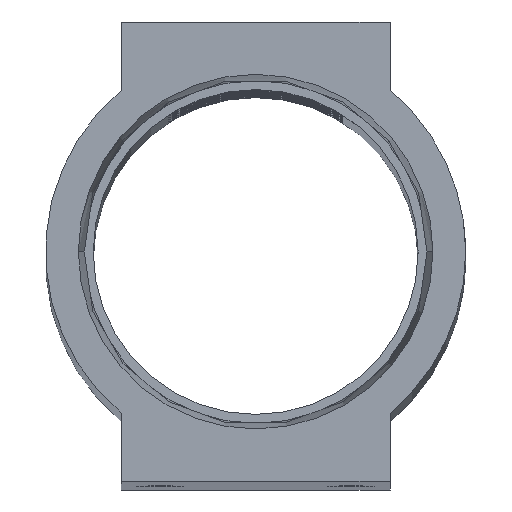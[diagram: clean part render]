
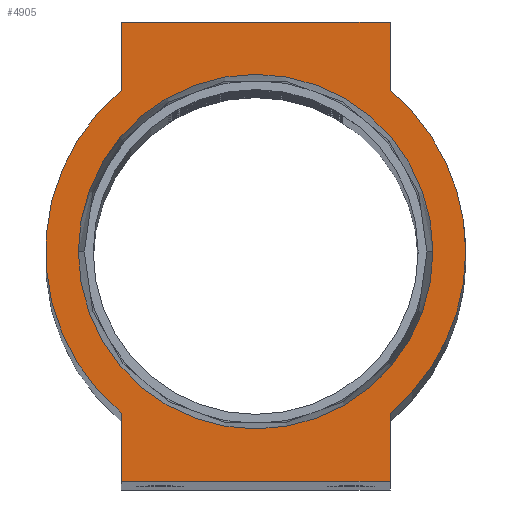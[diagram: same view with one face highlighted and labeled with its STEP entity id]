
A CAD part, top view. The second image highlights one B-rep face of the part: STEP entity #4905.
In plain terms, the highlighted planar face has unit normal (0, 0, 1).
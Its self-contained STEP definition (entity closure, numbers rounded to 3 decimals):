
#226 = LINE ( 'NONE', #8926, #8662 ) ;
#327 = AXIS2_PLACEMENT_3D ( 'NONE', #876, #10544, #8302 ) ;
#403 = ORIENTED_EDGE ( 'NONE', *, *, #968, .T. ) ;
#450 = AXIS2_PLACEMENT_3D ( 'NONE', #3150, #12665, #3010 ) ;
#460 = CIRCLE ( 'NONE', #450, 18.75 ) ;
#513 = DIRECTION ( 'NONE',  ( 0., 1., 0. ) ) ;
#865 = CARTESIAN_POINT ( 'NONE',  ( -12., -20.5, 0. ) ) ;
#876 = CARTESIAN_POINT ( 'NONE',  ( 0., 0., 0. ) ) ;
#880 = VECTOR ( 'NONE', #513, 1000. ) ;
#883 = CARTESIAN_POINT ( 'NONE',  ( 0., 0., 0. ) ) ;
#968 = EDGE_CURVE ( 'NONE', #11360, #12406, #11030, .T. ) ;
#1036 = EDGE_CURVE ( 'NONE', #5599, #1129, #9316, .T. ) ;
#1129 = VERTEX_POINT ( 'NONE', #6098 ) ;
#1180 = CARTESIAN_POINT ( 'NONE',  ( -12., 20.5, 0. ) ) ;
#1319 = LINE ( 'NONE', #9915, #880 ) ;
#1365 = VECTOR ( 'NONE', #3903, 1000. ) ;
#1671 = ORIENTED_EDGE ( 'NONE', *, *, #2642, .T. ) ;
#1813 = VERTEX_POINT ( 'NONE', #7015 ) ;
#1976 = CARTESIAN_POINT ( 'NONE',  ( 0., 0., 0. ) ) ;
#1978 = EDGE_CURVE ( 'NONE', #5286, #10702, #13319, .T. ) ;
#2037 = AXIS2_PLACEMENT_3D ( 'NONE', #1976, #11858, #4179 ) ;
#2125 = ORIENTED_EDGE ( 'NONE', *, *, #7960, .T. ) ;
#2213 = DIRECTION ( 'NONE',  ( 0., -1., 0. ) ) ;
#2632 = CARTESIAN_POINT ( 'NONE',  ( 0., 0., 0. ) ) ;
#2642 = EDGE_CURVE ( 'NONE', #6502, #8103, #11205, .T. ) ;
#2791 = CARTESIAN_POINT ( 'NONE',  ( 12., -14.407, 0. ) ) ;
#2948 = VERTEX_POINT ( 'NONE', #11305 ) ;
#3010 = DIRECTION ( 'NONE',  ( 1., 0., 0. ) ) ;
#3150 = CARTESIAN_POINT ( 'NONE',  ( 0., 0., 0. ) ) ;
#3548 = ORIENTED_EDGE ( 'NONE', *, *, #1036, .F. ) ;
#3571 = CARTESIAN_POINT ( 'NONE',  ( 0., 0., 0. ) ) ;
#3658 = CARTESIAN_POINT ( 'NONE',  ( 12., -20.5, 0. ) ) ;
#3791 = EDGE_CURVE ( 'NONE', #8103, #2948, #1319, .T. ) ;
#3903 = DIRECTION ( 'NONE',  ( 0., -1., 0. ) ) ;
#4087 = VERTEX_POINT ( 'NONE', #10453 ) ;
#4179 = DIRECTION ( 'NONE',  ( 1., 0., 0. ) ) ;
#4759 = EDGE_CURVE ( 'NONE', #4087, #11360, #460, .T. ) ;
#4804 = AXIS2_PLACEMENT_3D ( 'NONE', #3571, #8171, #9154 ) ;
#4905 = ADVANCED_FACE ( 'NONE', ( #12914, #10667 ), #8562, .T. ) ;
#5144 = ORIENTED_EDGE ( 'NONE', *, *, #8654, .F. ) ;
#5187 = DIRECTION ( 'NONE',  ( 0., 0., 1. ) ) ;
#5286 = VERTEX_POINT ( 'NONE', #12990 ) ;
#5599 = VERTEX_POINT ( 'NONE', #6808 ) ;
#5766 = DIRECTION ( 'NONE',  ( 1., 0., 0. ) ) ;
#6098 = CARTESIAN_POINT ( 'NONE',  ( 15.827, 0., 0. ) ) ;
#6502 = VERTEX_POINT ( 'NONE', #11058 ) ;
#6745 = EDGE_LOOP ( 'NONE', ( #5144, #3548 ) ) ;
#6808 = CARTESIAN_POINT ( 'NONE',  ( -15.827, 0., 0. ) ) ;
#6960 = AXIS2_PLACEMENT_3D ( 'NONE', #883, #5187, #7239 ) ;
#7015 = CARTESIAN_POINT ( 'NONE',  ( -12., 20.5, 0. ) ) ;
#7239 = DIRECTION ( 'NONE',  ( 1., 0., 0. ) ) ;
#7374 = DIRECTION ( 'NONE',  ( -1., 0., 0. ) ) ;
#7426 = LINE ( 'NONE', #13762, #1365 ) ;
#7960 = EDGE_CURVE ( 'NONE', #12406, #5286, #226, .T. ) ;
#7976 = DIRECTION ( 'NONE',  ( 0., 1., 0. ) ) ;
#8103 = VERTEX_POINT ( 'NONE', #13874 ) ;
#8171 = DIRECTION ( 'NONE',  ( 0., 0., 1. ) ) ;
#8302 = DIRECTION ( 'NONE',  ( 1., 0., 0. ) ) ;
#8472 = ORIENTED_EDGE ( 'NONE', *, *, #4759, .T. ) ;
#8562 = PLANE ( 'NONE',  #2037 ) ;
#8654 = EDGE_CURVE ( 'NONE', #1129, #5599, #12487, .T. ) ;
#8662 = VECTOR ( 'NONE', #12002, 1000. ) ;
#8682 = VECTOR ( 'NONE', #7374, 1000. ) ;
#8926 = CARTESIAN_POINT ( 'NONE',  ( -12., -20.5, 0. ) ) ;
#9154 = DIRECTION ( 'NONE',  ( 1., 0., 0. ) ) ;
#9316 = CIRCLE ( 'NONE', #10499, 15.827 ) ;
#9326 = EDGE_CURVE ( 'NONE', #10702, #6502, #10899, .T. ) ;
#9809 = CARTESIAN_POINT ( 'NONE',  ( -12., -14.407, 0. ) ) ;
#9915 = CARTESIAN_POINT ( 'NONE',  ( 12., 20.5, 0. ) ) ;
#9968 = EDGE_CURVE ( 'NONE', #2948, #1813, #11967, .T. ) ;
#10189 = VECTOR ( 'NONE', #2213, 1000. ) ;
#10408 = ORIENTED_EDGE ( 'NONE', *, *, #3791, .T. ) ;
#10453 = CARTESIAN_POINT ( 'NONE',  ( -12., 14.407, 0. ) ) ;
#10499 = AXIS2_PLACEMENT_3D ( 'NONE', #2632, #12228, #5766 ) ;
#10544 = DIRECTION ( 'NONE',  ( 0., 0., 1. ) ) ;
#10667 = FACE_OUTER_BOUND ( 'NONE', #11554, .T. ) ;
#10702 = VERTEX_POINT ( 'NONE', #2791 ) ;
#10899 = CIRCLE ( 'NONE', #4804, 18.75 ) ;
#11030 = LINE ( 'NONE', #11801, #10189 ) ;
#11058 = CARTESIAN_POINT ( 'NONE',  ( 18.75, 0., 0. ) ) ;
#11205 = CIRCLE ( 'NONE', #6960, 18.75 ) ;
#11305 = CARTESIAN_POINT ( 'NONE',  ( 12., 20.5, 0. ) ) ;
#11360 = VERTEX_POINT ( 'NONE', #9809 ) ;
#11554 = EDGE_LOOP ( 'NONE', ( #10408, #11748, #12647, #8472, #403, #2125, #13531, #12158, #1671 ) ) ;
#11748 = ORIENTED_EDGE ( 'NONE', *, *, #9968, .T. ) ;
#11801 = CARTESIAN_POINT ( 'NONE',  ( -12., -20.5, 0. ) ) ;
#11858 = DIRECTION ( 'NONE',  ( 0., 0., 1. ) ) ;
#11967 = LINE ( 'NONE', #1180, #8682 ) ;
#12002 = DIRECTION ( 'NONE',  ( 1., 0., 0. ) ) ;
#12158 = ORIENTED_EDGE ( 'NONE', *, *, #9326, .T. ) ;
#12228 = DIRECTION ( 'NONE',  ( 0., 0., 1. ) ) ;
#12406 = VERTEX_POINT ( 'NONE', #865 ) ;
#12450 = EDGE_CURVE ( 'NONE', #1813, #4087, #7426, .T. ) ;
#12487 = CIRCLE ( 'NONE', #327, 15.827 ) ;
#12647 = ORIENTED_EDGE ( 'NONE', *, *, #12450, .T. ) ;
#12665 = DIRECTION ( 'NONE',  ( 0., 0., 1. ) ) ;
#12914 = FACE_BOUND ( 'NONE', #6745, .T. ) ;
#12990 = CARTESIAN_POINT ( 'NONE',  ( 12., -20.5, 0. ) ) ;
#13319 = LINE ( 'NONE', #3658, #13934 ) ;
#13531 = ORIENTED_EDGE ( 'NONE', *, *, #1978, .T. ) ;
#13762 = CARTESIAN_POINT ( 'NONE',  ( -12., 20.5, 0. ) ) ;
#13874 = CARTESIAN_POINT ( 'NONE',  ( 12., 14.407, 0. ) ) ;
#13934 = VECTOR ( 'NONE', #7976, 1000. ) ;
